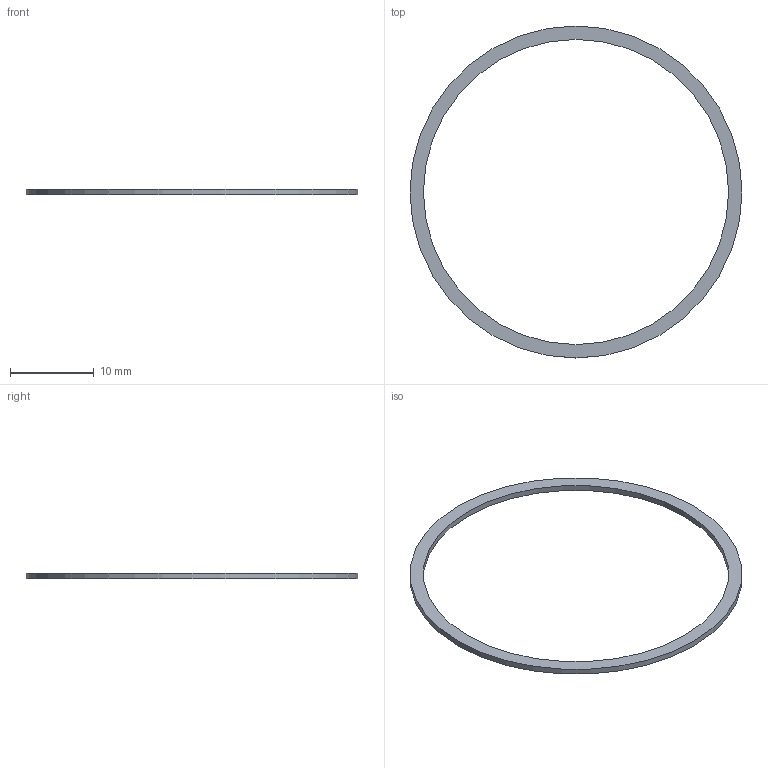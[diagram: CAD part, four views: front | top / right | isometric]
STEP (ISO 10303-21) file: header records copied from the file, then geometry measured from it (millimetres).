
FILE_DESCRIPTION(('Open CASCADE Model'),'2;1');
FILE_NAME('Open CASCADE Shape Model','2026-09-06T11:23:49',('Author'),( 'Open CASCADE'),'Open CASCADE STEP processor 7.7','Open CASCADE 7.7' ,'Unknown');
FILE_SCHEMA(('AUTOMOTIVE_DESIGN { 1 0 10303 214 1 1 1 1 }'));
Length unit declared in the file: millimetre
Products named in the file (1): Open CASCADE STEP translator 7.7 6
Bounding box: 39.6 x 39.6 x 0.7 mm (x, y, z)
Volume: 133.7 mm3; surface area: 549.2 mm2
Topology: 1 solids, 1 shells, 4 faces, 6 edges, 4 vertices
Faces by surface type: cylinder 2, plane 2
Full cylindrical faces by diameter (mm): 36.4 x1, 39.6 x1
Entity records: 192 total; most frequent: CARTESIAN_POINT 39, DIRECTION 30, ORIENTED_EDGE 12, PCURVE 12, DEFINITIONAL_REPRESENTATION 12, LINE 10, VECTOR 10, AXIS2_PLACEMENT_3D 9
